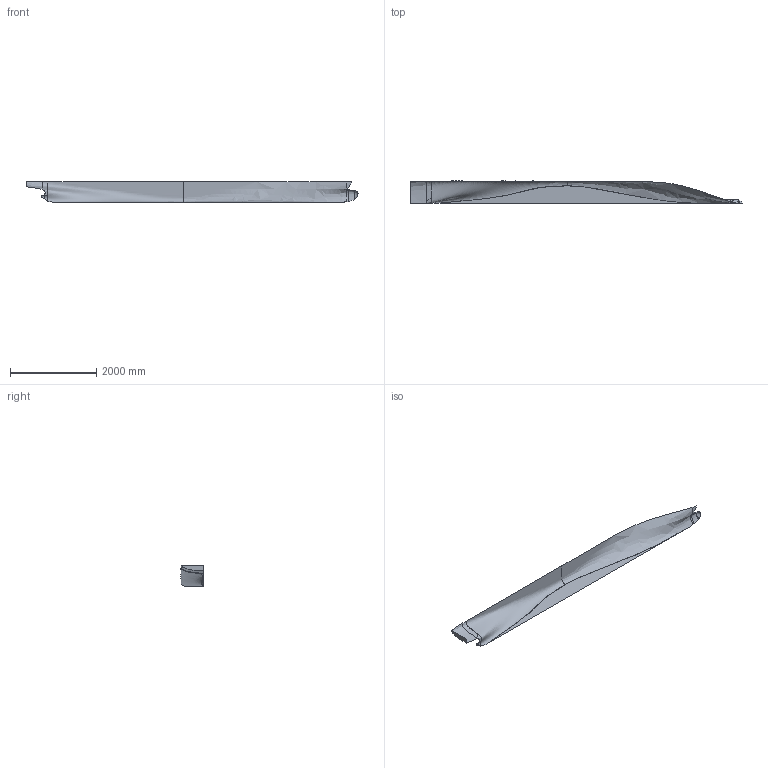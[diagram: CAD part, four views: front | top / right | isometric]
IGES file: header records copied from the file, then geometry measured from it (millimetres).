
Global section: file name: e:\ks621.igs; preprocessor: I-DEAS Master Series 7:    IGES; date: 000218.143820; units: millimetre
Bounding box: 7690.18 x 510.75 x 475 mm (x, y, z)
Surface area: 6001038.9 mm2 (no closed solid volume)
Topology: 0 solids, 0 shells, 18 faces, 71 edges, 71 vertices
Faces by surface type: bspline 18
